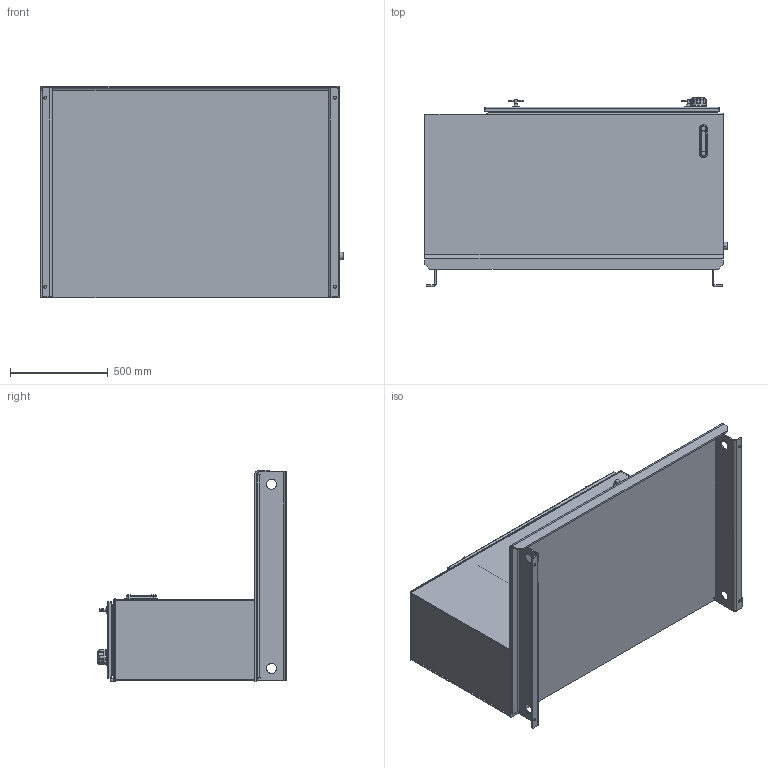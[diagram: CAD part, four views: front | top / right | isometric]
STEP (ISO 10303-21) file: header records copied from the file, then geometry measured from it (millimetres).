
FILE_DESCRIPTION (( 'STEP AP203' ), '1' );
FILE_NAME ('RLP100-PHT.STEP', '2015-01-07T19:07:42', ( '' ), ( '' ), 'SwSTEP 2.0', 'SolidWorks 2014', '' );
FILE_SCHEMA (( 'CONFIG_CONTROL_DESIGN' ));
Length unit declared in the file: inch
Products named in the file (1): RLP100-PHT
Bounding box: 1543.05 x 965.37 x 1082.65 mm (x, y, z)
Surface area: 11089645.3 mm2 (no closed solid volume)
Topology: 0 solids, 21 shells, 327 faces, 1104 edges, 758 vertices
Faces by surface type: plane 154, cylinder 115, torus 20, cone 16, bspline 15, sphere 7
Entity records: 13347 total; most frequent: CARTESIAN_POINT 3940, DIRECTION 1995, ORIENTED_EDGE 1670, EDGE_CURVE 1087, VERTEX_POINT 750, AXIS2_PLACEMENT_3D 691, LINE 613, VECTOR 613
